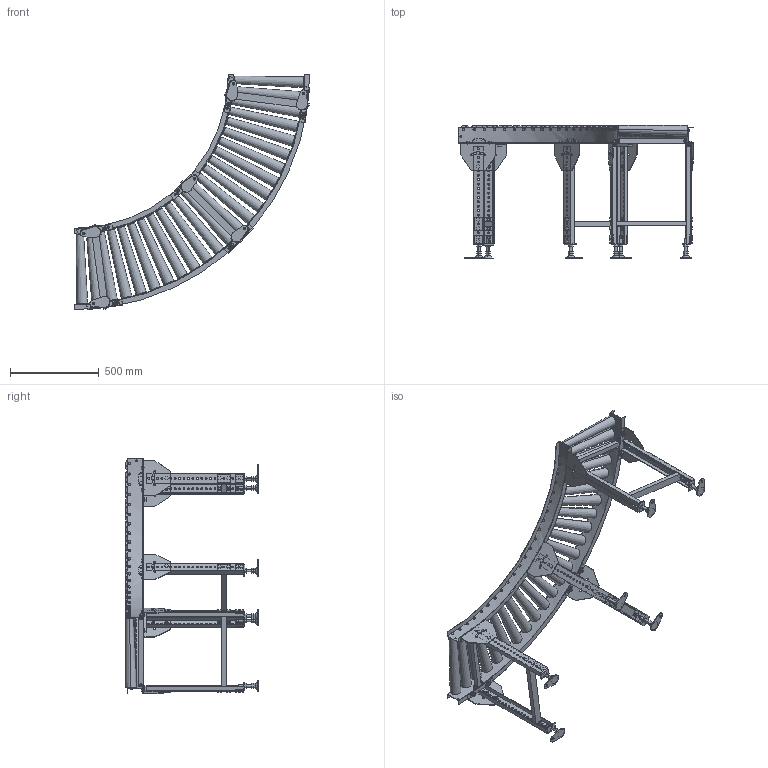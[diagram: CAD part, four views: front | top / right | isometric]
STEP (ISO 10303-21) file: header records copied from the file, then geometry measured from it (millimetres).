
FILE_DESCRIPTION (( 'STEP AP214' ), '1' );
FILE_NAME ('JRT-C9-400-75-90.STEP', '2022-09-28T23:31:30', ( '' ), ( '' ), 'SwSTEP 2.0', 'SolidWorks 2017', '' );
FILE_SCHEMA (( 'AUTOMOTIVE_DESIGN' ));
Length unit declared in the file: millimetre
Products named in the file (1): JRT-C9-400-75-90
Bounding box: 1330.18 x 750 x 1330.18 mm (x, y, z)
Volume: 25935389.6 mm3; surface area: 4229732.6 mm2
Topology: 28 solids, 58 shells, 3330 faces, 7956 edges, 5016 vertices
Faces by surface type: plane 2330, cylinder 940, cone 60
Entity records: 142292 total; most frequent: CARTESIAN_POINT 25934, DIRECTION 16946, ORIENTED_EDGE 15912, EDGE_CURVE 7956, AXIS2_PLACEMENT_3D 5945, VECTOR 5056, LINE 5056, VERTEX_POINT 5016
